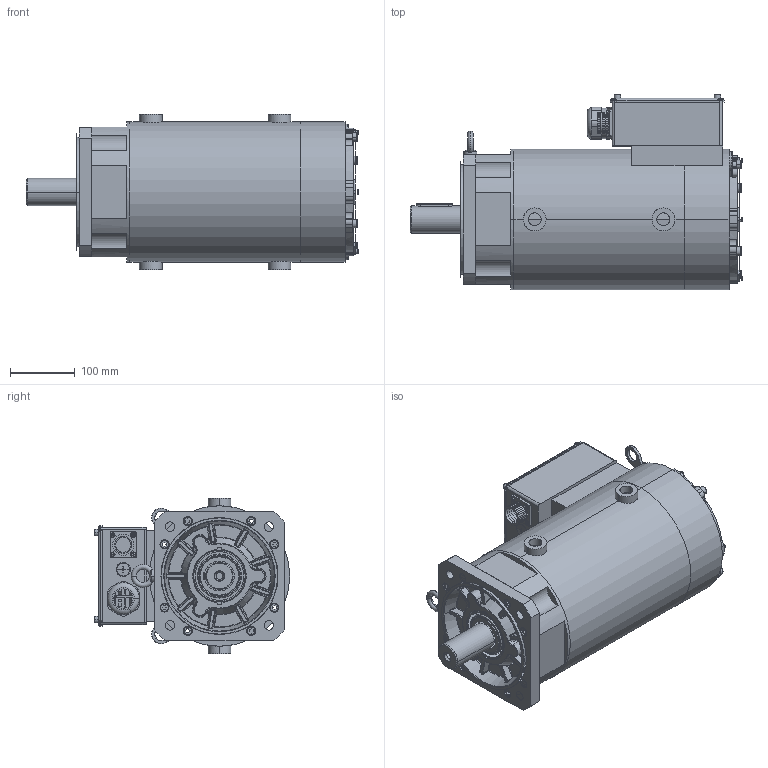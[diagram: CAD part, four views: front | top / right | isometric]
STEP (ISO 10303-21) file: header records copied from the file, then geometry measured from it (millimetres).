
FILE_DESCRIPTION((''),'2;1');
FILE_NAME('11101-01796_SW0001','2026-02-12T16:55:49',('admin'),(''),'CREO PARAMETRIC BY PTC INC, 2019080','CREO PARAMETRIC BY PTC INC, 2019080','');
FILE_SCHEMA(('CONFIG_CONTROL_DESIGN'));
Length unit declared in the file: millimetre
Products named in the file (1): 11101-01796_SW0001
Bounding box: 511 x 300.5 x 240 mm (x, y, z)
Surface area: 992395.3 mm2 (no closed solid volume)
Topology: 0 solids, 112 shells, 727 faces, 3031 edges, 2357 vertices
Faces by surface type: plane 307, cylinder 272, cone 66, torus 57, bspline 16, sphere 9
Entity records: 35104 total; most frequent: CARTESIAN_POINT 10526, DIRECTION 5318, ORIENTED_EDGE 4139, EDGE_CURVE 3029, VERTEX_POINT 2357, AXIS2_PLACEMENT_3D 1938, VECTOR 1442, LINE 1442
